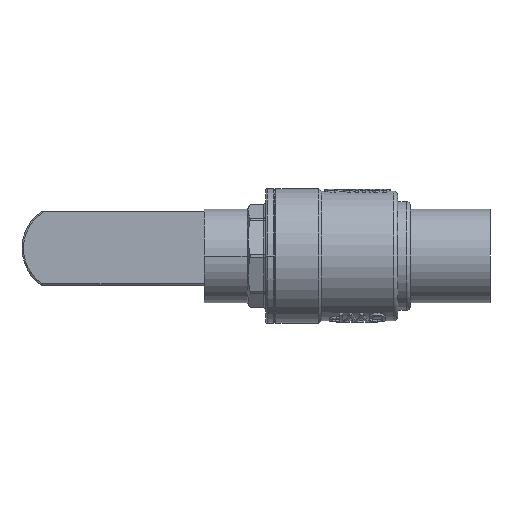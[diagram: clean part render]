
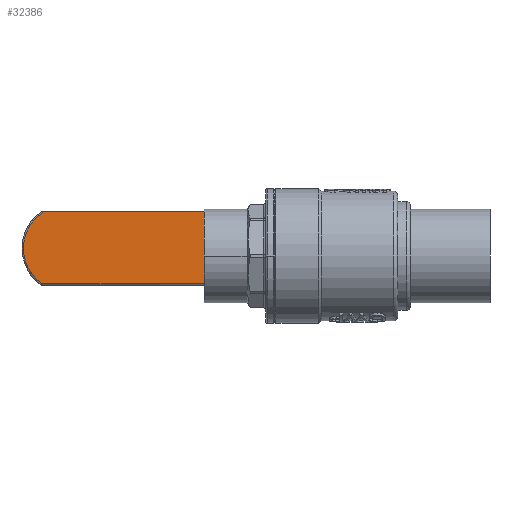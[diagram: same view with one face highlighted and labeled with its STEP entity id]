
A CAD part, front view. The second image highlights one B-rep face of the part: STEP entity #32386.
In plain terms, the highlighted planar face has unit normal (0, -1, 0).
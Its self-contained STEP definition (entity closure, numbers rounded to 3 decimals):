
#2062 = VECTOR ( 'NONE', #31637, 1000. ) ;
#4405 = CARTESIAN_POINT ( 'NONE',  ( 50.456, 20.5, -13.65 ) ) ;
#5677 = CARTESIAN_POINT ( 'NONE',  ( 50.456, 20.5, 12.65 ) ) ;
#5836 = CIRCLE ( 'NONE', #60431, 16.059 ) ;
#6662 = DIRECTION ( 'NONE',  ( 0., 0., 1. ) ) ;
#6668 = EDGE_CURVE ( 'NONE', #44972, #60852, #19764, .T. ) ;
#8691 = ORIENTED_EDGE ( 'NONE', *, *, #60231, .T. ) ;
#11727 = CARTESIAN_POINT ( 'NONE',  ( 104.441, 20.5, 0. ) ) ;
#12488 = CARTESIAN_POINT ( 'NONE',  ( 113.659, 20.5, 13.15 ) ) ;
#13655 = EDGE_CURVE ( 'NONE', #23081, #70525, #51980, .T. ) ;
#16885 = DIRECTION ( 'NONE',  ( 0., 0., 1. ) ) ;
#17637 = CARTESIAN_POINT ( 'NONE',  ( 49.6, 20.5, 12.65 ) ) ;
#18399 = CARTESIAN_POINT ( 'NONE',  ( 50.456, 20.5, 13.15 ) ) ;
#19167 = VECTOR ( 'NONE', #52092, 1000. ) ;
#19764 = LINE ( 'NONE', #18399, #24292 ) ;
#23081 = VERTEX_POINT ( 'NONE', #4405 ) ;
#23363 = CARTESIAN_POINT ( 'NONE',  ( 50.456, 20.5, 13.15 ) ) ;
#24292 = VECTOR ( 'NONE', #31068, 1000. ) ;
#24935 = DIRECTION ( 'NONE',  ( 0., -1., 0. ) ) ;
#29301 = EDGE_CURVE ( 'NONE', #70525, #44972, #5836, .T. ) ;
#31068 = DIRECTION ( 'NONE',  ( -1., 0., 0. ) ) ;
#31147 = CARTESIAN_POINT ( 'NONE',  ( 49.6, 20.5, -13.65 ) ) ;
#31637 = DIRECTION ( 'NONE',  ( 1., 0., 0. ) ) ;
#31728 = ORIENTED_EDGE ( 'NONE', *, *, #29301, .T. ) ;
#32286 = AXIS2_PLACEMENT_3D ( 'NONE', #17637, #40692, #16885 ) ;
#32386 = ADVANCED_FACE ( 'NONE', ( #33605 ), #46257, .F. ) ;
#33605 = FACE_OUTER_BOUND ( 'NONE', #35734, .T. ) ;
#35734 = EDGE_LOOP ( 'NONE', ( #56696, #31728, #44223, #8691 ) ) ;
#40692 = DIRECTION ( 'NONE',  ( 0., 1., 0. ) ) ;
#41839 = LINE ( 'NONE', #5677, #19167 ) ;
#44223 = ORIENTED_EDGE ( 'NONE', *, *, #6668, .T. ) ;
#44972 = VERTEX_POINT ( 'NONE', #12488 ) ;
#46257 = PLANE ( 'NONE',  #32286 ) ;
#51980 = LINE ( 'NONE', #31147, #2062 ) ;
#52092 = DIRECTION ( 'NONE',  ( 0., 0., -1. ) ) ;
#56696 = ORIENTED_EDGE ( 'NONE', *, *, #13655, .T. ) ;
#60231 = EDGE_CURVE ( 'NONE', #60852, #23081, #41839, .T. ) ;
#60431 = AXIS2_PLACEMENT_3D ( 'NONE', #11727, #24935, #6662 ) ;
#60852 = VERTEX_POINT ( 'NONE', #23363 ) ;
#70525 = VERTEX_POINT ( 'NONE', #70804 ) ;
#70804 = CARTESIAN_POINT ( 'NONE',  ( 112.901, 20.5, -13.65 ) ) ;
